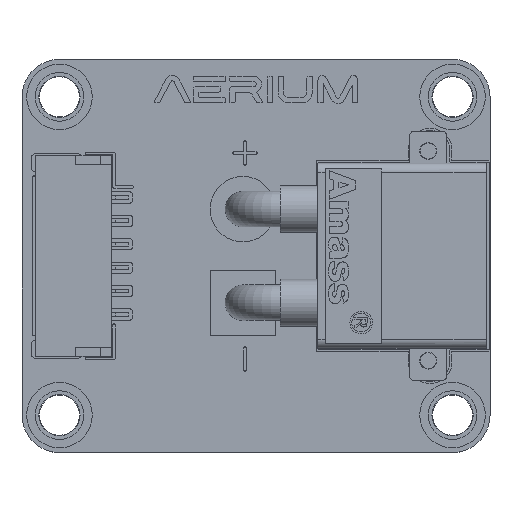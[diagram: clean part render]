
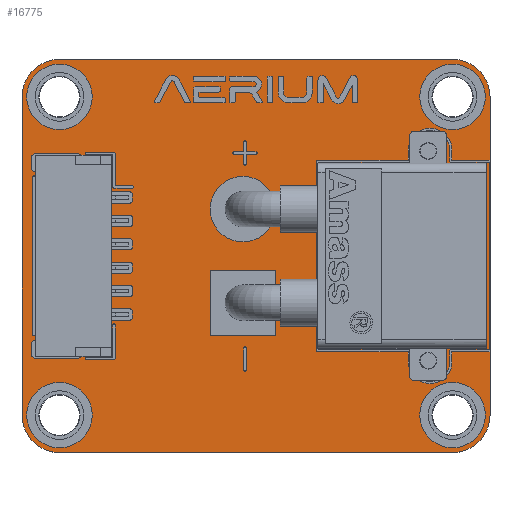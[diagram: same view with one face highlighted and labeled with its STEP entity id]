
A CAD part, top view. The second image highlights one B-rep face of the part: STEP entity #16775.
In plain terms, the highlighted planar face has unit normal (0, 0, 1).
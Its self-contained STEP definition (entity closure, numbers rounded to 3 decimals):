
#703=CIRCLE('',#17973,2.);
#716=CIRCLE('',#17990,2.);
#717=CIRCLE('',#17991,2.);
#718=CIRCLE('',#17992,2.);
#719=CIRCLE('',#17993,1.1);
#720=CIRCLE('',#17994,0.95);
#721=CIRCLE('',#17995,1.1);
#722=CIRCLE('',#17996,0.5);
#723=CIRCLE('',#17997,0.95);
#724=CIRCLE('',#17998,1.1);
#725=CIRCLE('',#17999,0.5);
#726=CIRCLE('',#18000,1.1);
#906=FACE_BOUND('',#2625,.T.);
#907=FACE_BOUND('',#2626,.T.);
#908=FACE_BOUND('',#2627,.T.);
#909=FACE_BOUND('',#2628,.T.);
#910=FACE_BOUND('',#2629,.T.);
#911=FACE_BOUND('',#2630,.T.);
#912=FACE_BOUND('',#2631,.T.);
#913=FACE_BOUND('',#2632,.T.);
#1699=FACE_OUTER_BOUND('',#2624,.T.);
#2624=EDGE_LOOP('',(#14903,#14904,#14905,#14906,#14907,#14908,#14909,#14910));
#2625=EDGE_LOOP('',(#14911));
#2626=EDGE_LOOP('',(#14912));
#2627=EDGE_LOOP('',(#14913));
#2628=EDGE_LOOP('',(#14914));
#2629=EDGE_LOOP('',(#14915));
#2630=EDGE_LOOP('',(#14916));
#2631=EDGE_LOOP('',(#14917));
#2632=EDGE_LOOP('',(#14918));
#4564=LINE('',#30898,#6503);
#4566=LINE('',#30902,#6505);
#4571=LINE('',#30936,#6510);
#4572=LINE('',#30940,#6511);
#6503=VECTOR('',#22093,1.);
#6505=VECTOR('',#22097,1.);
#6510=VECTOR('',#22130,1.);
#6511=VECTOR('',#22133,1.);
#8244=VERTEX_POINT('',#30887);
#8245=VERTEX_POINT('',#30889);
#8248=VERTEX_POINT('',#30896);
#8249=VERTEX_POINT('',#30901);
#8263=VERTEX_POINT('',#30933);
#8264=VERTEX_POINT('',#30935);
#8265=VERTEX_POINT('',#30937);
#8266=VERTEX_POINT('',#30939);
#8267=VERTEX_POINT('',#30942);
#8268=VERTEX_POINT('',#30944);
#8269=VERTEX_POINT('',#30946);
#8270=VERTEX_POINT('',#30948);
#8271=VERTEX_POINT('',#30950);
#8272=VERTEX_POINT('',#30952);
#8273=VERTEX_POINT('',#30954);
#8274=VERTEX_POINT('',#30956);
#10621=EDGE_CURVE('',#8244,#8245,#703,.T.);
#10625=EDGE_CURVE('',#8248,#8244,#4564,.T.);
#10627=EDGE_CURVE('',#8245,#8249,#4566,.T.);
#10643=EDGE_CURVE('',#8263,#8248,#716,.T.);
#10644=EDGE_CURVE('',#8264,#8263,#4571,.T.);
#10645=EDGE_CURVE('',#8265,#8264,#717,.T.);
#10646=EDGE_CURVE('',#8266,#8265,#4572,.T.);
#10647=EDGE_CURVE('',#8249,#8266,#718,.T.);
#10648=EDGE_CURVE('',#8267,#8267,#719,.T.);
#10649=EDGE_CURVE('',#8268,#8268,#720,.T.);
#10650=EDGE_CURVE('',#8269,#8269,#721,.T.);
#10651=EDGE_CURVE('',#8270,#8270,#722,.T.);
#10652=EDGE_CURVE('',#8271,#8271,#723,.T.);
#10653=EDGE_CURVE('',#8272,#8272,#724,.T.);
#10654=EDGE_CURVE('',#8273,#8273,#725,.T.);
#10655=EDGE_CURVE('',#8274,#8274,#726,.T.);
#14903=ORIENTED_EDGE('',*,*,#10621,.F.);
#14904=ORIENTED_EDGE('',*,*,#10625,.F.);
#14905=ORIENTED_EDGE('',*,*,#10643,.F.);
#14906=ORIENTED_EDGE('',*,*,#10644,.F.);
#14907=ORIENTED_EDGE('',*,*,#10645,.F.);
#14908=ORIENTED_EDGE('',*,*,#10646,.F.);
#14909=ORIENTED_EDGE('',*,*,#10647,.F.);
#14910=ORIENTED_EDGE('',*,*,#10627,.F.);
#14911=ORIENTED_EDGE('',*,*,#10648,.T.);
#14912=ORIENTED_EDGE('',*,*,#10649,.T.);
#14913=ORIENTED_EDGE('',*,*,#10650,.T.);
#14914=ORIENTED_EDGE('',*,*,#10651,.T.);
#14915=ORIENTED_EDGE('',*,*,#10652,.T.);
#14916=ORIENTED_EDGE('',*,*,#10653,.T.);
#14917=ORIENTED_EDGE('',*,*,#10654,.T.);
#14918=ORIENTED_EDGE('',*,*,#10655,.T.);
#15570=PLANE('',#17989);
#16775=ADVANCED_FACE('',(#1699,#906,#907,#908,#909,#910,#911,#912,#913),
#15570,.T.);
#17973=AXIS2_PLACEMENT_3D('',#30890,#22085,#22086);
#17989=AXIS2_PLACEMENT_3D('',#30932,#22126,#22127);
#17990=AXIS2_PLACEMENT_3D('',#30934,#22128,#22129);
#17991=AXIS2_PLACEMENT_3D('',#30938,#22131,#22132);
#17992=AXIS2_PLACEMENT_3D('',#30941,#22134,#22135);
#17993=AXIS2_PLACEMENT_3D('',#30943,#22136,#22137);
#17994=AXIS2_PLACEMENT_3D('',#30945,#22138,#22139);
#17995=AXIS2_PLACEMENT_3D('',#30947,#22140,#22141);
#17996=AXIS2_PLACEMENT_3D('',#30949,#22142,#22143);
#17997=AXIS2_PLACEMENT_3D('',#30951,#22144,#22145);
#17998=AXIS2_PLACEMENT_3D('',#30953,#22146,#22147);
#17999=AXIS2_PLACEMENT_3D('',#30955,#22148,#22149);
#18000=AXIS2_PLACEMENT_3D('',#30957,#22150,#22151);
#22085=DIRECTION('center_axis',(0.,0.,-1.));
#22086=DIRECTION('ref_axis',(0.,1.,0.));
#22093=DIRECTION('',(1.,0.,0.));
#22097=DIRECTION('',(0.,-1.,0.));
#22126=DIRECTION('center_axis',(0.,0.,1.));
#22127=DIRECTION('ref_axis',(1.,0.,0.));
#22128=DIRECTION('center_axis',(0.,0.,-1.));
#22129=DIRECTION('ref_axis',(-1.,0.,0.));
#22130=DIRECTION('',(0.,1.,0.));
#22131=DIRECTION('center_axis',(0.,0.,-1.));
#22132=DIRECTION('ref_axis',(0.,-1.,0.));
#22133=DIRECTION('',(-1.,0.,0.));
#22134=DIRECTION('center_axis',(0.,0.,-1.));
#22135=DIRECTION('ref_axis',(1.,0.,0.));
#22136=DIRECTION('center_axis',(0.,0.,-1.));
#22137=DIRECTION('ref_axis',(0.,-1.,0.));
#22138=DIRECTION('center_axis',(0.,0.,-1.));
#22139=DIRECTION('ref_axis',(0.,-1.,0.));
#22140=DIRECTION('center_axis',(0.,0.,-1.));
#22141=DIRECTION('ref_axis',(0.,-1.,0.));
#22142=DIRECTION('center_axis',(0.,0.,-1.));
#22143=DIRECTION('ref_axis',(0.,-1.,0.));
#22144=DIRECTION('center_axis',(0.,0.,-1.));
#22145=DIRECTION('ref_axis',(0.,-1.,0.));
#22146=DIRECTION('center_axis',(0.,0.,-1.));
#22147=DIRECTION('ref_axis',(0.,-1.,0.));
#22148=DIRECTION('center_axis',(0.,0.,-1.));
#22149=DIRECTION('ref_axis',(0.,-1.,0.));
#22150=DIRECTION('center_axis',(0.,0.,-1.));
#22151=DIRECTION('ref_axis',(0.,-1.,0.));
#30887=CARTESIAN_POINT('',(21.,0.,1.51));
#30889=CARTESIAN_POINT('',(23.,-2.,1.51));
#30890=CARTESIAN_POINT('Origin',(21.,-2.,1.51));
#30896=CARTESIAN_POINT('',(0.,0.,1.51));
#30898=CARTESIAN_POINT('',(0.,0.,1.51));
#30901=CARTESIAN_POINT('',(23.,-19.,1.51));
#30902=CARTESIAN_POINT('',(23.,-2.,1.51));
#30932=CARTESIAN_POINT('Origin',(0.,0.,1.51));
#30933=CARTESIAN_POINT('',(-2.,-2.,1.51));
#30934=CARTESIAN_POINT('Origin',(0.,-2.,1.51));
#30935=CARTESIAN_POINT('',(-2.,-19.,1.51));
#30936=CARTESIAN_POINT('',(-2.,-19.,1.51));
#30937=CARTESIAN_POINT('',(0.,-21.,1.51));
#30938=CARTESIAN_POINT('Origin',(0.,-19.,1.51));
#30939=CARTESIAN_POINT('',(21.,-21.,1.51));
#30940=CARTESIAN_POINT('',(21.,-21.,1.51));
#30941=CARTESIAN_POINT('Origin',(21.,-19.,1.51));
#30942=CARTESIAN_POINT('',(0.,-17.9,1.51));
#30943=CARTESIAN_POINT('Origin',(0.,-19.,1.51));
#30944=CARTESIAN_POINT('',(9.8,-12.05,1.51));
#30945=CARTESIAN_POINT('Origin',(9.8,-13.,1.51));
#30946=CARTESIAN_POINT('',(21.,-17.9,1.51));
#30947=CARTESIAN_POINT('Origin',(21.,-19.,1.51));
#30948=CARTESIAN_POINT('',(19.8,-15.5,1.51));
#30949=CARTESIAN_POINT('Origin',(19.8,-16.,1.51));
#30950=CARTESIAN_POINT('',(9.8,-7.05,1.51));
#30951=CARTESIAN_POINT('Origin',(9.8,-8.,1.51));
#30952=CARTESIAN_POINT('',(0.,-0.9,1.51));
#30953=CARTESIAN_POINT('Origin',(0.,-2.,1.51));
#30954=CARTESIAN_POINT('',(19.8,-4.5,1.51));
#30955=CARTESIAN_POINT('Origin',(19.8,-5.,1.51));
#30956=CARTESIAN_POINT('',(21.,-0.9,1.51));
#30957=CARTESIAN_POINT('Origin',(21.,-2.,1.51));
